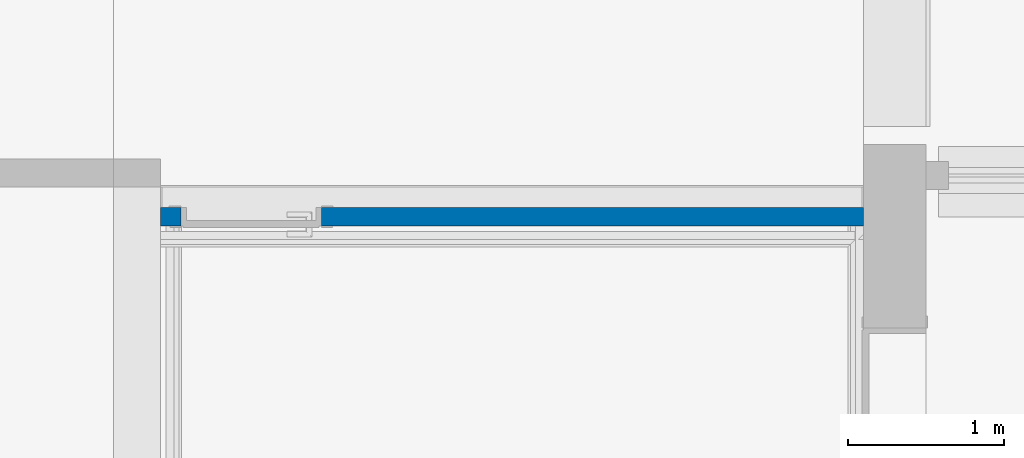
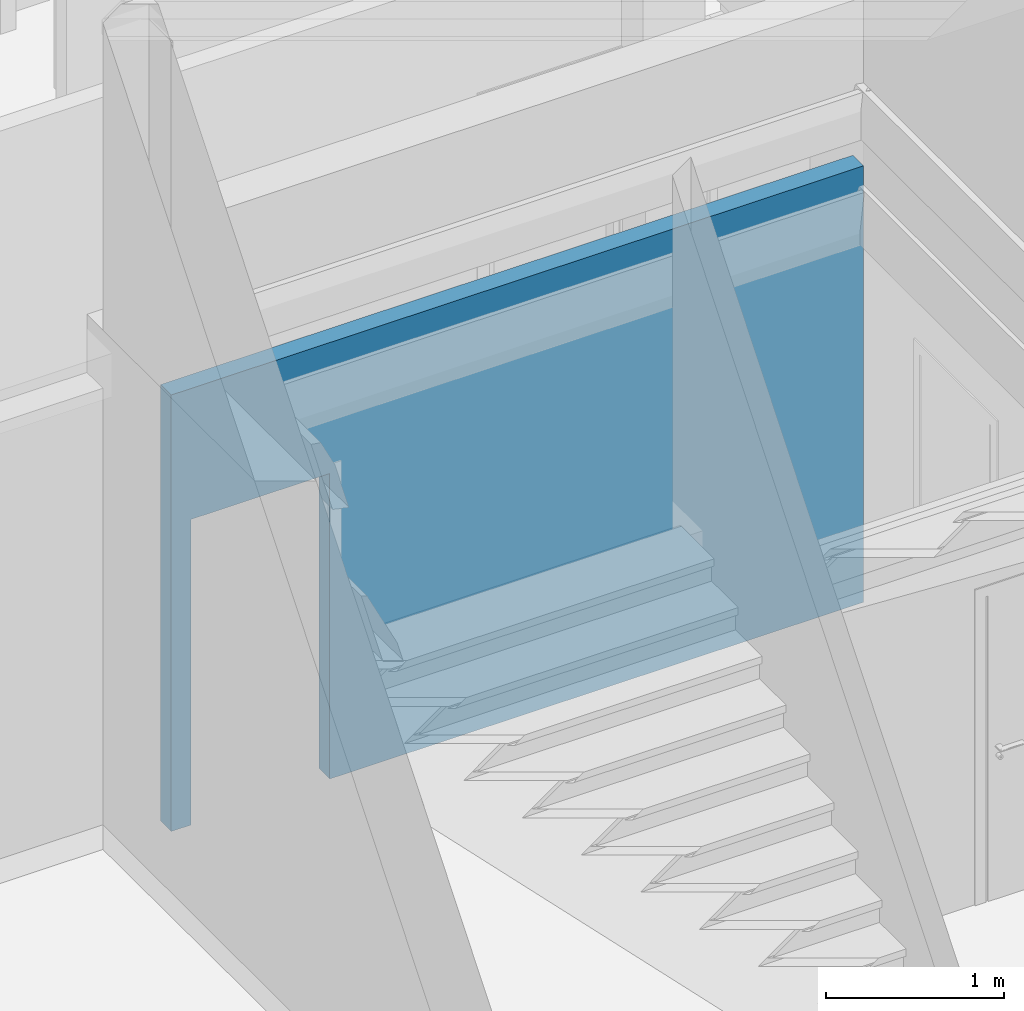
# One storey, part 72 of 117: 1 wall, 1 opening.
"""IFC4 building model written with IfcOpenShell, lengths in metres."""

from ifc_helpers import new_model, entity, si_unit, converted_unit, derived_unit, direction, frame, origin, place, context, subcontext, project, spatial, indexed_curve, outline, extrude, polygons, material, type_object, element, save


model = new_model("IFC4")

# Units and contexts
model_context = context("Model", 3, precision=1e-05, world=origin(), true_north=direction((6.123031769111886e-17, 1.0)))
body_context = subcontext(model_context, "Body", "Model", "MODEL_VIEW")
ifc_project = project(units=[si_unit("LENGTHUNIT", "METRE"), si_unit("AREAUNIT", "SQUARE_METRE"), si_unit("VOLUMEUNIT", "CUBIC_METRE"), converted_unit("PLANEANGLEUNIT", "DEGREE", entity("IfcRatioMeasure", 0.017453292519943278), si_unit("PLANEANGLEUNIT", "RADIAN"), dimensions=[0, 0, 0, 0, 0, 0, 0]), si_unit("MASSUNIT", "GRAM", prefix="KILO"), derived_unit("MASSDENSITYUNIT", [(si_unit("MASSUNIT", "GRAM", prefix="KILO"), 1), (si_unit("LENGTHUNIT", "METRE"), -3)]), derived_unit("MOMENTOFINERTIAUNIT", [(si_unit("LENGTHUNIT", "METRE"), 4)]), si_unit("TIMEUNIT", "SECOND"), si_unit("FREQUENCYUNIT", "HERTZ"), si_unit("THERMODYNAMICTEMPERATUREUNIT", "DEGREE_CELSIUS"), derived_unit("THERMALTRANSMITTANCEUNIT", [(si_unit("MASSUNIT", "GRAM", prefix="KILO"), 1), (si_unit("THERMODYNAMICTEMPERATUREUNIT", "KELVIN"), -1), (si_unit("TIMEUNIT", "SECOND"), -3)]), derived_unit("VOLUMETRICFLOWRATEUNIT", [(si_unit("LENGTHUNIT", "METRE"), 3), (si_unit("TIMEUNIT", "SECOND"), -1)]), derived_unit("MASSFLOWRATEUNIT", [(si_unit("MASSUNIT", "GRAM", prefix="KILO"), 1), (si_unit("TIMEUNIT", "SECOND"), -1)]), derived_unit("ROTATIONALFREQUENCYUNIT", [(si_unit("TIMEUNIT", "SECOND"), -1)]), si_unit("ELECTRICCURRENTUNIT", "AMPERE"), si_unit("ELECTRICVOLTAGEUNIT", "VOLT"), si_unit("POWERUNIT", "WATT"), si_unit("FORCEUNIT", "NEWTON", prefix="KILO"), si_unit("ILLUMINANCEUNIT", "LUX"), si_unit("LUMINOUSFLUXUNIT", "LUMEN"), si_unit("LUMINOUSINTENSITYUNIT", "CANDELA"), derived_unit("USERDEFINED", [(si_unit("MASSUNIT", "GRAM", prefix="KILO"), -1), (si_unit("LENGTHUNIT", "METRE"), -2), (si_unit("TIMEUNIT", "SECOND"), 3), (si_unit("LUMINOUSFLUXUNIT", "LUMEN"), 1)]), derived_unit("SOUNDPOWERUNIT", [(si_unit("MASSUNIT", "GRAM", prefix="KILO"), 1), (si_unit("LENGTHUNIT", "METRE"), 2), (si_unit("TIMEUNIT", "SECOND"), -3)]), derived_unit("SOUNDPRESSUREUNIT", [(si_unit("MASSUNIT", "GRAM", prefix="KILO"), 1), (si_unit("LENGTHUNIT", "METRE"), -1), (si_unit("TIMEUNIT", "SECOND"), -2)]), derived_unit("LINEARVELOCITYUNIT", [(si_unit("LENGTHUNIT", "METRE"), 1), (si_unit("TIMEUNIT", "SECOND"), -1)]), si_unit("PRESSUREUNIT", "PASCAL"), derived_unit("USERDEFINED", [(si_unit("LENGTHUNIT", "METRE"), -2), (si_unit("MASSUNIT", "GRAM", prefix="KILO"), 1), (si_unit("TIMEUNIT", "SECOND"), -2)]), derived_unit("LINEARFORCEUNIT", [(si_unit("MASSUNIT", "GRAM", prefix="KILO"), 1), (si_unit("LENGTHUNIT", "METRE"), 1), (si_unit("TIMEUNIT", "SECOND"), -2), (si_unit("LENGTHUNIT", "METRE"), -1)]), derived_unit("PLANARFORCEUNIT", [(si_unit("MASSUNIT", "GRAM", prefix="KILO"), 1), (si_unit("LENGTHUNIT", "METRE"), 1), (si_unit("TIMEUNIT", "SECOND"), -2), (si_unit("LENGTHUNIT", "METRE"), -2)])], contexts=[model_context])

# Site, building, storey
site_placement = place(None, origin())
site = spatial("IfcSite", under=ifc_project, at=site_placement, Name="Superficie", CompositionType="ELEMENT")
building_placement = place(site_placement, origin())
building = spatial("IfcBuilding", under=site, at=building_placement, CompositionType="ELEMENT")
storey_placement = place(building_placement, origin())
storey = spatial("IfcBuildingStorey", under=building, at=storey_placement, Name="Nivel 0", CompositionType="ELEMENT", Elevation=0.0)

# Wall, opening
ifc_material = material(Name="Muro por defecto", Category="Varios")
wall_type = type_object("IfcWallType", Name="Muro básico:Por defecto - 12 cm 2", PredefinedType="STANDARD")
wall_placement = place(storey_placement, frame((-23.043200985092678, 3.3058292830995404, 0.0), z_axis=(0.0, 0.0, 1.0), x_axis=(-1.0, 0.0, 0.0)))
wall = element("IfcWall", 1, at=wall_placement, inside=storey, type_object=wall_type, material=ifc_material, Name="Muro básico:Por defecto - 12 cm 2", ObjectType="Muro básico:Por defecto - 12 cm 2", PredefinedType="NOTDEFINED", context=body_context, shape_type="Tessellation", body=[
    polygons([(1.3910001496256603e-12, -0.059999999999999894, 2.9999999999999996), (1.3866686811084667e-12, -0.059999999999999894, 0.0), (3.4700000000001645, -0.059999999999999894, 0.0), (3.4700000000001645, -0.059999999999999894, 2.099999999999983), (4.370000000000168, -0.060000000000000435, 2.099999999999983), (4.370000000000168, -0.060000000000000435, 0.0), (4.500000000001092, -0.059999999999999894, 0.0), (4.500000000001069, -0.059999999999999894, 2.9999999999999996), (-2.2725867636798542e-15, 0.059999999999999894, 0.0), (-2.272586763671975e-15, 0.05999999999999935, 2.9999999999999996), (4.499999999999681, 0.059999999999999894, 2.9999999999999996), (4.4999999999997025, 0.059999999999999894, 0.0), (4.370000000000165, 0.059999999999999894, 0.0), (4.370000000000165, 0.05999999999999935, 2.099999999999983), (3.4700000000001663, 0.059999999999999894, 2.099999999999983), (3.4700000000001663, 0.060000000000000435, 0.0)], [[[1, 2, 3, 4, 5, 6, 7, 8]], [[9, 10, 11, 12, 13, 14, 15, 16]], [[2, 9, 16, 3]], [[5, 14, 13, 6]], [[14, 5, 4, 15]], [[15, 4, 3, 16]], [[2, 1, 10, 9]], [[1, 8, 11, 10]], [[7, 12, 11, 8]], [[12, 7, 6, 13]]], closed=True),
])
opening_placement = place(wall_placement, frame((3.4699999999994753, -0.0600000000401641, 0.0)))
element("IfcOpeningElement", 2, at=opening_placement, cuts=wall, Name="Puerta de 1 hoja:90 x 210 cm:1", PredefinedType="OPENING", context=body_context, shape_type="SweptSolid", body=[
    extrude(outline(indexed_curve([(0.0, 0.899999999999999), (0.0, -1.370868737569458e-27), (2.099999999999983, -1.370868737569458e-27), (2.099999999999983, 0.899999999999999), (0.0, 0.899999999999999)], self_intersect=False)), frame((0.0, 0.0, 0.0), z_axis=(0.0, 1.0, 0.0), x_axis=(0.0, 0.0, 1.0)), (0.0, 0.0, 1.0), 0.12),
])

save(model, "model.ifc")
